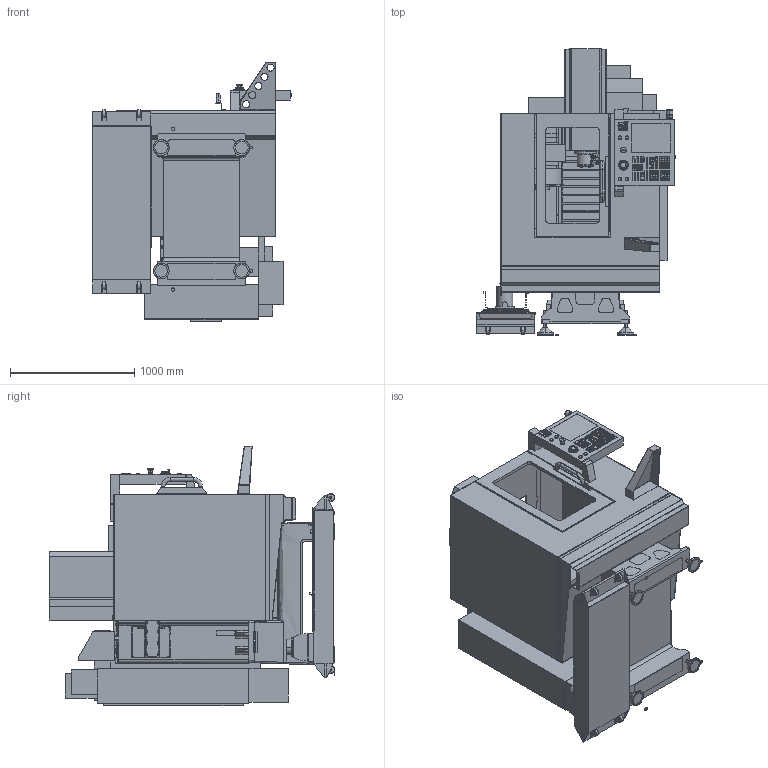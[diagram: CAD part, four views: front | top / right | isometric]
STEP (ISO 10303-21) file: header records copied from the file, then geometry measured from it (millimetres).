
FILE_DESCRIPTION (( 'STEP AP203' ), '1' );
FILE_NAME ('Pocket Mill_6_2025.STEP', '2025-06-17T18:11:01', ( '' ), ( '' ), 'SwSTEP 2.0', 'SolidWorks 2023', '' );
FILE_SCHEMA (( 'CONFIG_CONTROL_DESIGN' ));
Length unit declared in the file: inch
Products named in the file (15): Pocket Mill- 10 Pkt Tool Changer; Pocket Mill- Saddle; Pocket Mill- Base And Column; Pocket Mill- Anchor Pattern; Pocket Mill- Z Axis; Pocket Mill- Waycovers; Pocket Mill- Enclosure; Pocket Mill_6_2025; Pocket Mill- Control Panel; Pocket Mill- Floor; Pocket Mill- Leveling Pads; Pocket Mill- Table; Pocket Mill- Coolant Tank; Pocket Mill- Spindle Head; Pocket Mill- Door
Assembly tree (14 placements, depth 2):
  Pocket Mill_6_2025
    Pocket Mill- Anchor Pattern
    Pocket Mill- Leveling Pads
    Pocket Mill- Base And Column
    Pocket Mill- Saddle
    Pocket Mill- Waycovers
    Pocket Mill- Table
    Pocket Mill- Z Axis
    Pocket Mill- Spindle Head
    Pocket Mill- 10 Pkt Tool Changer
    Pocket Mill- Floor
    Pocket Mill- Enclosure
    Pocket Mill- Door
    Pocket Mill- Control Panel
    Pocket Mill- Coolant Tank
Bounding box: 1605.6 x 2296.69 x 2085.6 mm (x, y, z)
Volume: 1117499825.9 mm3; surface area: 44156595.1 mm2
Topology: 41 solids, 77 shells, 7464 faces, 19781 edges, 12687 vertices
Faces by surface type: plane 4273, cylinder 2067, bspline 538, cone 355, torus 139, sphere 92
Entity records: 251026 total; most frequent: CARTESIAN_POINT 68278, ORIENTED_EDGE 39298, DIRECTION 35588, EDGE_CURVE 19649, VERTEX_POINT 12687, VECTOR 12548, LINE 12548, AXIS2_PLACEMENT_3D 11520
